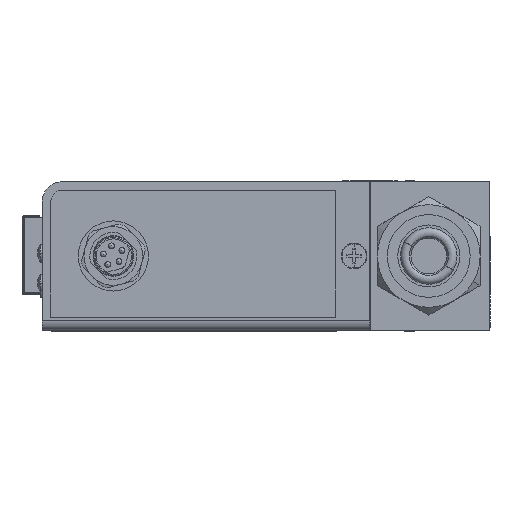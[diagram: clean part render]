
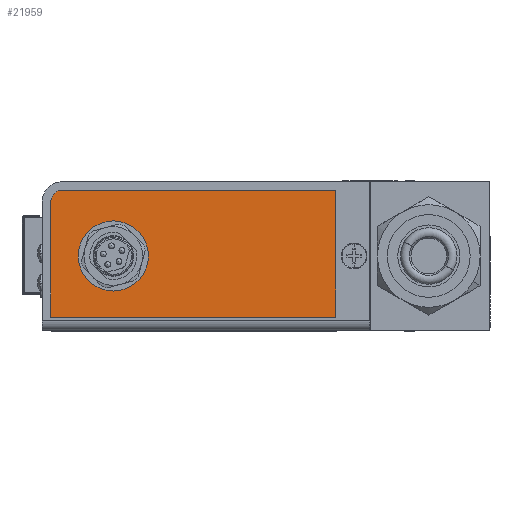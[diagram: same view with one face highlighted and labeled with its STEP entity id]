
A CAD part, left-side view. The second image highlights one B-rep face of the part: STEP entity #21959.
In plain terms, the highlighted planar face has unit normal (-1, 0, 0).
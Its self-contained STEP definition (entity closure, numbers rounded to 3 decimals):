
#3914 = VERTEX_POINT ( 'NONE', #14285 ) ;
#12089 = ORIENTED_EDGE ( 'NONE', *, *, #28691, .F. ) ;
#12443 = ORIENTED_EDGE ( 'NONE', *, *, #61426, .T. ) ;
#14285 = CARTESIAN_POINT ( 'NONE',  ( -0.127, 15.811, 11.176 ) ) ;
#15934 = AXIS2_PLACEMENT_3D ( 'NONE', #39508, #28642, #108226 ) ;
#16198 = DIRECTION ( 'NONE',  ( 0., -1., 0. ) ) ;
#16515 = VERTEX_POINT ( 'NONE', #18291 ) ;
#17646 = VERTEX_POINT ( 'NONE', #121068 ) ;
#18195 = LINE ( 'NONE', #18895, #142919 ) ;
#18291 = CARTESIAN_POINT ( 'NONE',  ( -0.127, 64.325, -10.414 ) ) ;
#18895 = CARTESIAN_POINT ( 'NONE',  ( -0.127, 64.325, -10.414 ) ) ;
#21959 = ADVANCED_FACE ( 'NONE', ( #92625, #126661 ), #82486, .T. ) ;
#27076 = DIRECTION ( 'NONE',  ( -1., 0., 0. ) ) ;
#27581 = EDGE_CURVE ( 'NONE', #120719, #51134, #78334, .T. ) ;
#28642 = DIRECTION ( 'NONE',  ( -1., 0., 0. ) ) ;
#28691 = EDGE_CURVE ( 'NONE', #51134, #120719, #85151, .T. ) ;
#32234 = DIRECTION ( 'NONE',  ( 0., 1., 0. ) ) ;
#38190 = CARTESIAN_POINT ( 'NONE',  ( -0.127, 15.811, -10.414 ) ) ;
#39508 = CARTESIAN_POINT ( 'NONE',  ( -0.127, 53.657, 0. ) ) ;
#41697 = LINE ( 'NONE', #140883, #142572 ) ;
#49067 = LINE ( 'NONE', #38190, #141615 ) ;
#49514 = DIRECTION ( 'NONE',  ( -1., 0., 0. ) ) ;
#49912 = CARTESIAN_POINT ( 'NONE',  ( -0.127, 62.293, 9.144 ) ) ;
#51134 = VERTEX_POINT ( 'NONE', #136538 ) ;
#54381 = EDGE_CURVE ( 'NONE', #3914, #105503, #41697, .T. ) ;
#55917 = LINE ( 'NONE', #87766, #68003 ) ;
#59937 = EDGE_CURVE ( 'NONE', #105503, #17646, #81683, .T. ) ;
#60003 = ORIENTED_EDGE ( 'NONE', *, *, #74448, .T. ) ;
#61426 = EDGE_CURVE ( 'NONE', #111973, #3914, #49067, .T. ) ;
#63149 = ORIENTED_EDGE ( 'NONE', *, *, #27581, .F. ) ;
#66056 = ORIENTED_EDGE ( 'NONE', *, *, #54381, .T. ) ;
#68003 = VECTOR ( 'NONE', #134086, 1000. ) ;
#72384 = AXIS2_PLACEMENT_3D ( 'NONE', #137146, #27076, #95083 ) ;
#74448 = EDGE_CURVE ( 'NONE', #17646, #16515, #18195, .T. ) ;
#76967 = CARTESIAN_POINT ( 'NONE',  ( -0.127, 47.688, 0. ) ) ;
#78334 = CIRCLE ( 'NONE', #15934, 5.969 ) ;
#80645 = ORIENTED_EDGE ( 'NONE', *, *, #119550, .T. ) ;
#81683 = CIRCLE ( 'NONE', #72384, 2.032 ) ;
#82115 = CARTESIAN_POINT ( 'NONE',  ( -0.127, 62.293, 11.176 ) ) ;
#82486 = PLANE ( 'NONE',  #107797 ) ;
#85151 = CIRCLE ( 'NONE', #119773, 5.969 ) ;
#87766 = CARTESIAN_POINT ( 'NONE',  ( -0.127, 64.325, -10.414 ) ) ;
#92625 = FACE_OUTER_BOUND ( 'NONE', #128739, .T. ) ;
#95083 = DIRECTION ( 'NONE',  ( 0., -1., 0. ) ) ;
#100290 = CARTESIAN_POINT ( 'NONE',  ( -0.127, 15.811, -10.414 ) ) ;
#104911 = DIRECTION ( 'NONE',  ( 0., -1., 0. ) ) ;
#105503 = VERTEX_POINT ( 'NONE', #82115 ) ;
#107221 = DIRECTION ( 'NONE',  ( 0., 0., -1. ) ) ;
#107797 = AXIS2_PLACEMENT_3D ( 'NONE', #49912, #136823, #104911 ) ;
#108226 = DIRECTION ( 'NONE',  ( 0., -1., 0. ) ) ;
#111973 = VERTEX_POINT ( 'NONE', #100290 ) ;
#119550 = EDGE_CURVE ( 'NONE', #16515, #111973, #55917, .T. ) ;
#119773 = AXIS2_PLACEMENT_3D ( 'NONE', #124856, #49514, #16198 ) ;
#120719 = VERTEX_POINT ( 'NONE', #76967 ) ;
#121068 = CARTESIAN_POINT ( 'NONE',  ( -0.127, 64.325, 9.144 ) ) ;
#124856 = CARTESIAN_POINT ( 'NONE',  ( -0.127, 53.657, 0. ) ) ;
#125819 = DIRECTION ( 'NONE',  ( 0., 0., 1. ) ) ;
#126287 = ORIENTED_EDGE ( 'NONE', *, *, #59937, .T. ) ;
#126661 = FACE_BOUND ( 'NONE', #137456, .T. ) ;
#128739 = EDGE_LOOP ( 'NONE', ( #80645, #12443, #66056, #126287, #60003 ) ) ;
#134086 = DIRECTION ( 'NONE',  ( 0., -1., 0. ) ) ;
#136538 = CARTESIAN_POINT ( 'NONE',  ( -0.127, 59.626, 0. ) ) ;
#136823 = DIRECTION ( 'NONE',  ( -1., 0., 0. ) ) ;
#137146 = CARTESIAN_POINT ( 'NONE',  ( -0.127, 62.293, 9.144 ) ) ;
#137456 = EDGE_LOOP ( 'NONE', ( #12089, #63149 ) ) ;
#140883 = CARTESIAN_POINT ( 'NONE',  ( -0.127, 62.293, 11.176 ) ) ;
#141615 = VECTOR ( 'NONE', #125819, 1000. ) ;
#142572 = VECTOR ( 'NONE', #32234, 1000. ) ;
#142919 = VECTOR ( 'NONE', #107221, 1000. ) ;
